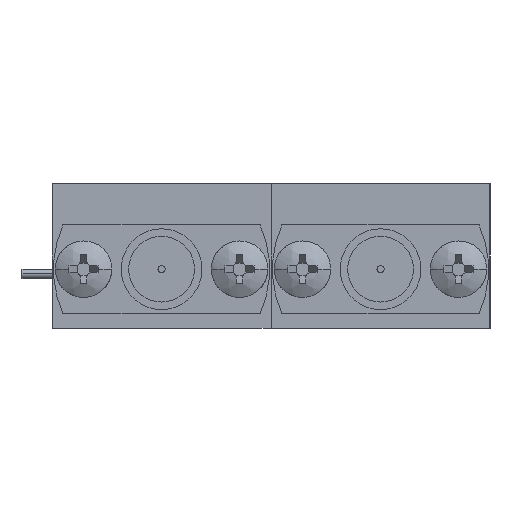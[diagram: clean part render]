
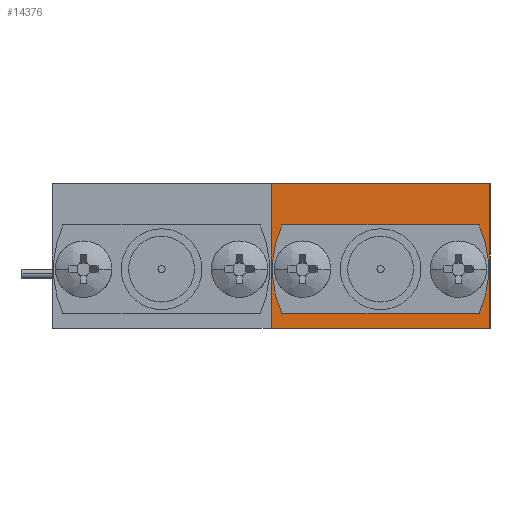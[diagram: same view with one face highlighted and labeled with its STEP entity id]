
A CAD part, left-side view. The second image highlights one B-rep face of the part: STEP entity #14376.
In plain terms, the highlighted planar face has unit normal (-1, 0, 0).
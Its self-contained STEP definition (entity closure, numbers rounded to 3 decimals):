
#216 = EDGE_CURVE ( 'NONE', #1832, #5667, #7903, .T. ) ;
#242 = CARTESIAN_POINT ( 'NONE',  ( 66.776, 92.797, 7.7 ) ) ;
#660 = ORIENTED_EDGE ( 'NONE', *, *, #4233, .F. ) ;
#667 = DIRECTION ( 'NONE',  ( 0., 0., 1. ) ) ;
#1148 = CARTESIAN_POINT ( 'NONE',  ( 66.776, 102.772, 3.15 ) ) ;
#1240 = ORIENTED_EDGE ( 'NONE', *, *, #5674, .F. ) ;
#1253 = CARTESIAN_POINT ( 'NONE',  ( 66.776, 102.772, 3.15 ) ) ;
#1381 = DIRECTION ( 'NONE',  ( 0., 0., 1. ) ) ;
#1387 = DIRECTION ( 'NONE',  ( -1., 0., 0. ) ) ;
#1479 = VECTOR ( 'NONE', #2674, 1000. ) ;
#1605 = EDGE_CURVE ( 'NONE', #7801, #1832, #12367, .T. ) ;
#1832 = VERTEX_POINT ( 'NONE', #8662 ) ;
#1874 = EDGE_CURVE ( 'NONE', #12809, #14806, #6905, .T. ) ;
#1987 = CARTESIAN_POINT ( 'NONE',  ( 66.776, 98.622, 1.55 ) ) ;
#2029 = CARTESIAN_POINT ( 'NONE',  ( 66.776, 92.797, 0. ) ) ;
#2216 = FACE_BOUND ( 'NONE', #11794, .T. ) ;
#2239 = CARTESIAN_POINT ( 'NONE',  ( 66.776, 94.472, 3.775 ) ) ;
#2299 = AXIS2_PLACEMENT_3D ( 'NONE', #1148, #10810, #5950 ) ;
#2423 = CARTESIAN_POINT ( 'NONE',  ( 66.776, 92.797, 7.7 ) ) ;
#2479 = DIRECTION ( 'NONE',  ( 0., 0., -1. ) ) ;
#2674 = DIRECTION ( 'NONE',  ( 0., 0., -1. ) ) ;
#2753 = CIRCLE ( 'NONE', #10646, 0.625 ) ;
#3131 = LINE ( 'NONE', #2029, #8416 ) ;
#3310 = ORIENTED_EDGE ( 'NONE', *, *, #216, .F. ) ;
#3438 = ORIENTED_EDGE ( 'NONE', *, *, #13119, .T. ) ;
#3730 = LINE ( 'NONE', #14350, #1479 ) ;
#3925 = DIRECTION ( 'NONE',  ( 0., 0., -1. ) ) ;
#4070 = ORIENTED_EDGE ( 'NONE', *, *, #9686, .F. ) ;
#4145 = CIRCLE ( 'NONE', #9521, 0.625 ) ;
#4233 = EDGE_CURVE ( 'NONE', #13386, #10044, #7804, .T. ) ;
#4353 = CARTESIAN_POINT ( 'NONE',  ( 66.776, 94.472, 3.15 ) ) ;
#4510 = DIRECTION ( 'NONE',  ( -1., 0., 0. ) ) ;
#4899 = ORIENTED_EDGE ( 'NONE', *, *, #1605, .F. ) ;
#5222 = FACE_OUTER_BOUND ( 'NONE', #6961, .T. ) ;
#5667 = VERTEX_POINT ( 'NONE', #9798 ) ;
#5674 = EDGE_CURVE ( 'NONE', #14806, #12809, #14696, .T. ) ;
#5950 = DIRECTION ( 'NONE',  ( 0., 0., 1. ) ) ;
#6482 = VERTEX_POINT ( 'NONE', #6534 ) ;
#6517 = EDGE_LOOP ( 'NONE', ( #10880, #14771 ) ) ;
#6534 = CARTESIAN_POINT ( 'NONE',  ( 66.776, 94.472, 2.525 ) ) ;
#6591 = VECTOR ( 'NONE', #3925, 1000. ) ;
#6755 = FACE_BOUND ( 'NONE', #13398, .T. ) ;
#6905 = CIRCLE ( 'NONE', #14051, 1.6 ) ;
#6961 = EDGE_LOOP ( 'NONE', ( #14325, #3310, #4899, #3438 ) ) ;
#6987 = AXIS2_PLACEMENT_3D ( 'NONE', #14468, #8643, #1381 ) ;
#7487 = CARTESIAN_POINT ( 'NONE',  ( 66.776, 104.447, 7.7 ) ) ;
#7690 = ORIENTED_EDGE ( 'NONE', *, *, #1874, .F. ) ;
#7801 = VERTEX_POINT ( 'NONE', #7487 ) ;
#7804 = CIRCLE ( 'NONE', #2299, 0.625 ) ;
#7903 = LINE ( 'NONE', #242, #6591 ) ;
#8416 = VECTOR ( 'NONE', #9303, 1000. ) ;
#8430 = FACE_BOUND ( 'NONE', #6517, .T. ) ;
#8643 = DIRECTION ( 'NONE',  ( -1., 0., 0. ) ) ;
#8662 = CARTESIAN_POINT ( 'NONE',  ( 66.776, 92.797, 7.7 ) ) ;
#8947 = EDGE_CURVE ( 'NONE', #6482, #11710, #2753, .T. ) ;
#8980 = DIRECTION ( 'NONE',  ( -1., 0., 0. ) ) ;
#9044 = CARTESIAN_POINT ( 'NONE',  ( 66.776, 102.772, 2.525 ) ) ;
#9076 = CARTESIAN_POINT ( 'NONE',  ( 66.776, 98.622, 4.75 ) ) ;
#9168 = CARTESIAN_POINT ( 'NONE',  ( 66.776, 104.447, 0. ) ) ;
#9303 = DIRECTION ( 'NONE',  ( 0., -1., 0. ) ) ;
#9521 = AXIS2_PLACEMENT_3D ( 'NONE', #1253, #13070, #14416 ) ;
#9686 = EDGE_CURVE ( 'NONE', #10044, #13386, #4145, .T. ) ;
#9698 = DIRECTION ( 'NONE',  ( 1., 0., 0. ) ) ;
#9798 = CARTESIAN_POINT ( 'NONE',  ( 66.776, 92.797, 0. ) ) ;
#10010 = CIRCLE ( 'NONE', #10460, 0.625 ) ;
#10044 = VERTEX_POINT ( 'NONE', #11632 ) ;
#10460 = AXIS2_PLACEMENT_3D ( 'NONE', #4353, #4510, #12959 ) ;
#10646 = AXIS2_PLACEMENT_3D ( 'NONE', #11092, #1387, #10886 ) ;
#10810 = DIRECTION ( 'NONE',  ( -1., 0., 0. ) ) ;
#10880 = ORIENTED_EDGE ( 'NONE', *, *, #10915, .F. ) ;
#10886 = DIRECTION ( 'NONE',  ( 0., 0., 1. ) ) ;
#10915 = EDGE_CURVE ( 'NONE', #11710, #6482, #10010, .T. ) ;
#11092 = CARTESIAN_POINT ( 'NONE',  ( 66.776, 94.472, 3.15 ) ) ;
#11632 = CARTESIAN_POINT ( 'NONE',  ( 66.776, 102.772, 3.775 ) ) ;
#11710 = VERTEX_POINT ( 'NONE', #2239 ) ;
#11794 = EDGE_LOOP ( 'NONE', ( #4070, #660 ) ) ;
#12175 = DIRECTION ( 'NONE',  ( 0., -1., 0. ) ) ;
#12367 = LINE ( 'NONE', #13406, #13868 ) ;
#12809 = VERTEX_POINT ( 'NONE', #1987 ) ;
#12904 = VERTEX_POINT ( 'NONE', #9168 ) ;
#12959 = DIRECTION ( 'NONE',  ( 0., 0., 1. ) ) ;
#13070 = DIRECTION ( 'NONE',  ( -1., 0., 0. ) ) ;
#13119 = EDGE_CURVE ( 'NONE', #7801, #12904, #3730, .T. ) ;
#13384 = PLANE ( 'NONE',  #14228 ) ;
#13386 = VERTEX_POINT ( 'NONE', #9044 ) ;
#13398 = EDGE_LOOP ( 'NONE', ( #1240, #7690 ) ) ;
#13406 = CARTESIAN_POINT ( 'NONE',  ( 66.776, 92.797, 7.7 ) ) ;
#13840 = CARTESIAN_POINT ( 'NONE',  ( 66.776, 98.622, 3.15 ) ) ;
#13868 = VECTOR ( 'NONE', #12175, 1000. ) ;
#14051 = AXIS2_PLACEMENT_3D ( 'NONE', #13840, #8980, #667 ) ;
#14228 = AXIS2_PLACEMENT_3D ( 'NONE', #2423, #9698, #2479 ) ;
#14325 = ORIENTED_EDGE ( 'NONE', *, *, #14625, .T. ) ;
#14350 = CARTESIAN_POINT ( 'NONE',  ( 66.776, 104.447, 7.7 ) ) ;
#14376 = ADVANCED_FACE ( 'NONE', ( #2216, #8430, #6755, #5222 ), #13384, .F. ) ;
#14416 = DIRECTION ( 'NONE',  ( 0., 0., 1. ) ) ;
#14468 = CARTESIAN_POINT ( 'NONE',  ( 66.776, 98.622, 3.15 ) ) ;
#14625 = EDGE_CURVE ( 'NONE', #12904, #5667, #3131, .T. ) ;
#14696 = CIRCLE ( 'NONE', #6987, 1.6 ) ;
#14771 = ORIENTED_EDGE ( 'NONE', *, *, #8947, .F. ) ;
#14806 = VERTEX_POINT ( 'NONE', #9076 ) ;
